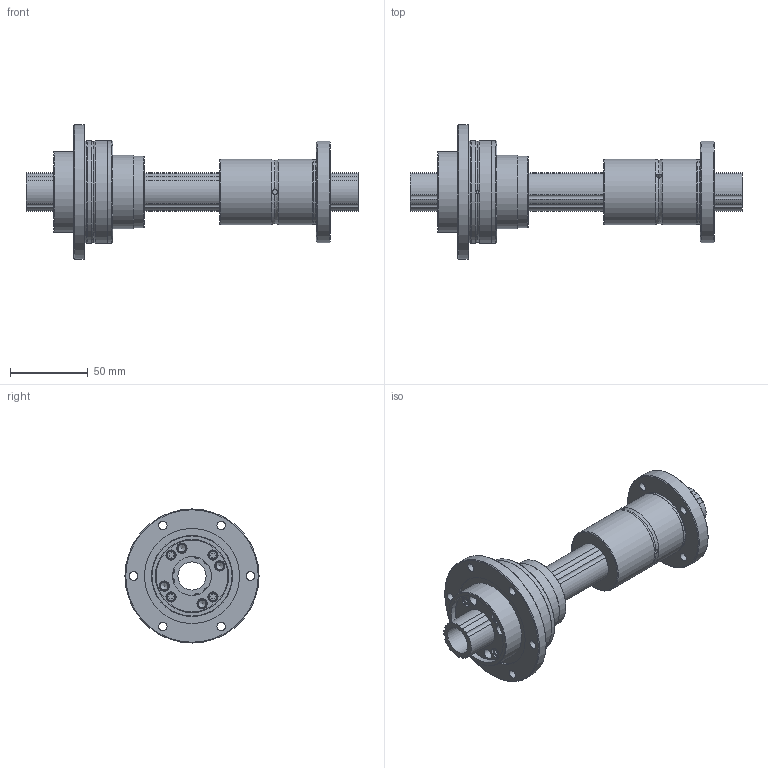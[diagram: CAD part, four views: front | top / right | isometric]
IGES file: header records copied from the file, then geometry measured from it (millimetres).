
Start section: Data from Parasolid IGES Translator 26.0.171, Copyright(c) 2006 Siemens PLM Software. All Rights Reserved.
Global section: file name: NS2525A+213L.igs; native system: By Siemens PLM Incorporated; preprocessor: XPlus GENERIC/IGES 26.0.171; author: Noname; organization: Noname; date: 20250611.084540; units: millimetre
Bounding box: 213 x 86 x 86 mm (x, y, z)
Surface area: 82393.5 mm2 (no closed solid volume)
Topology: 0 solids, 0 shells, 162 faces, 702 edges, 609 vertices
Faces by surface type: revolution 97, extrusion 65
